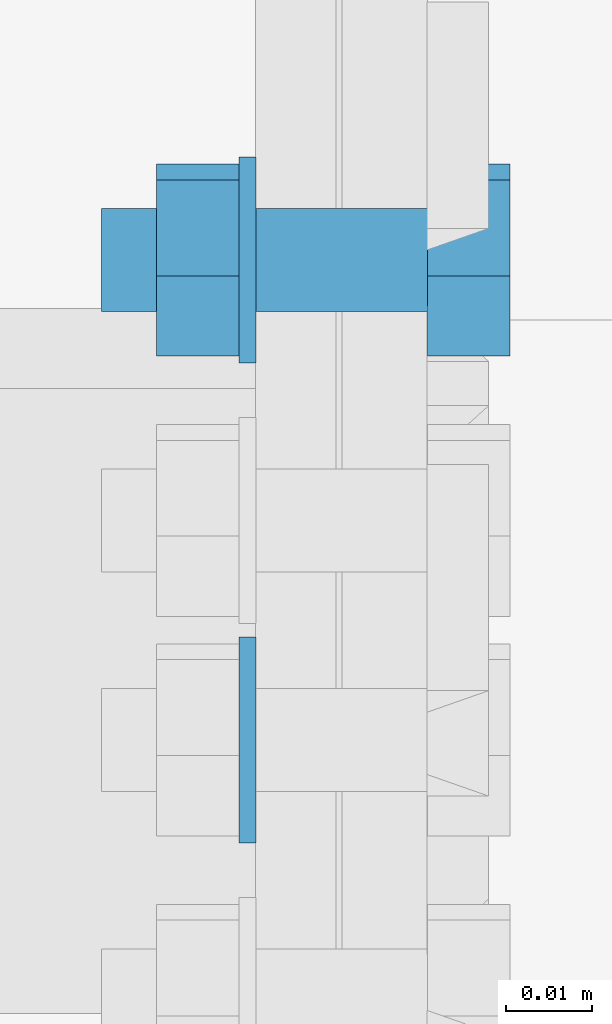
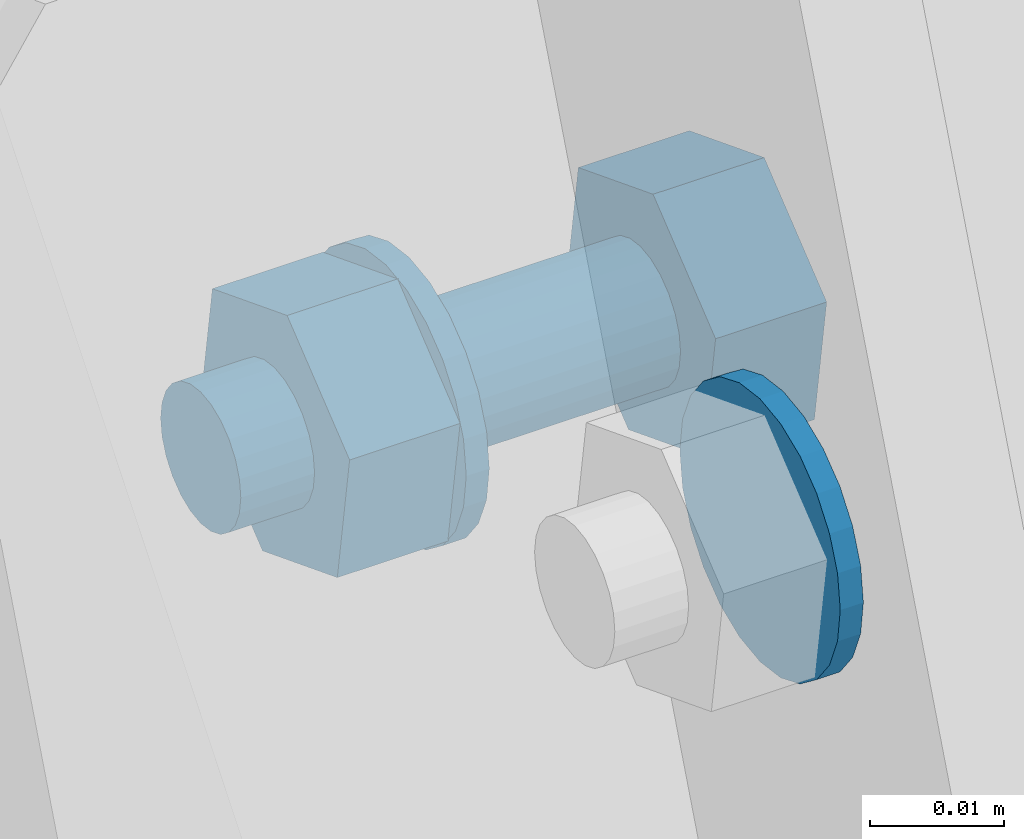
# One storey, part 32 of 72: 5 mechanical fasteners.
"""IFC4 building model written with IfcOpenShell, lengths in metres."""

import ifcopenshell
import ifcopenshell.guid

model = None  # the IFC model being written
_history = None  # IfcOwnerHistory: only IFC2X3 demands one
_inside = {}  # id of a spatial element -> (the spatial element, [elements in it])
_under = {}  # id of a project, library or spatial element -> (it, [spatial elements below it])
_declared = {}  # id of a project -> (the project, [libraries it declares])
_typed = {}  # id of a type object -> (the type object, [elements of that type])
_made_of = {}  # id of a material, layer set ... -> (it, [elements and type objects made of it])


def new_model(schema):
    """Start an empty IFC model of exactly this schema.

    Asked for "IFC4X3", IfcOpenShell would pick the latest addendum, in which some entities
    have other attributes; the version numbers below select the first issue.
    IFC2X3 requires an IfcOwnerHistory on every rooted entity: one is made here for all.
    """
    global model, _history
    if schema == "IFC4X3":
        model = ifcopenshell.file(schema_version=(4, 3, 0, 0))
    else:
        model = ifcopenshell.file(schema=schema)
    _inside.clear()
    _under.clear()
    _declared.clear()
    _typed.clear()
    _made_of.clear()
    _history = None
    if model.schema == "IFC2X3":
        org = make("IfcOrganization", Name="unknown")
        user = make(
            "IfcPersonAndOrganization",
            ThePerson=make("IfcPerson", FamilyName="unknown"),
            TheOrganization=org,
        )
        app = make(
            "IfcApplication",
            ApplicationDeveloper=org,
            Version="unknown",
            ApplicationFullName="unknown",
            ApplicationIdentifier="unknown",
        )
        _history = make(
            "IfcOwnerHistory",
            OwningUser=user,
            OwningApplication=app,
            ChangeAction="ADDED",
            CreationDate=0,
        )
    return model


def make(cls, **values):
    """One entity of the class cls with the attributes given. An attribute that is None is left unset."""
    return model.create_entity(
        cls, **{name: value for name, value in values.items() if value is not None}
    )


def rooted(cls, **values):
    """An entity with a GlobalId (a new one), such as an element, a storey or a relation."""
    return make(cls, GlobalId=ifcopenshell.guid.new(), OwnerHistory=_history, **values)


def si_unit(unit_type, name, prefix=None):
    """IfcSIUnit, for example si_unit("LENGTHUNIT", "METRE", prefix="MILLI")."""
    return make("IfcSIUnit", UnitType=unit_type, Prefix=prefix, Name=name)


def assignment(units):
    """IfcUnitAssignment: the units of a project."""
    return None if units is None else make("IfcUnitAssignment", Units=units)


def point(xyz):
    """IfcCartesianPoint."""
    return None if xyz is None else make("IfcCartesianPoint", Coordinates=xyz)


def direction(xyz):
    """IfcDirection."""
    return None if xyz is None else make("IfcDirection", DirectionRatios=xyz)


def frame(location, z_axis=None, x_axis=None):
    """IfcAxis2Placement3D, a coordinate frame: its origin and axes. An axis left out is left unset."""
    return make(
        "IfcAxis2Placement3D",
        Location=point(location),
        Axis=direction(z_axis),
        RefDirection=direction(x_axis),
    )


def origin_with_axes():
    """The frame at (0, 0, 0) with the z axis (0, 0, 1) and the x axis (1, 0, 0) written out."""
    return frame((0.0, 0.0, 0.0), z_axis=(0.0, 0.0, 1.0), x_axis=(1.0, 0.0, 0.0))


def place(relative_to, where):
    """IfcLocalPlacement: puts the frame where relative to a parent placement (None: the world)."""
    return make(
        "IfcLocalPlacement", PlacementRelTo=relative_to, RelativePlacement=where
    )


def context(
    kind, dimensions, precision=None, world=None, true_north=None, identifier=None
):
    """IfcGeometricRepresentationContext, for example the 3D "Model" context."""
    return make(
        "IfcGeometricRepresentationContext",
        ContextIdentifier=identifier,
        ContextType=kind,
        CoordinateSpaceDimension=dimensions,
        Precision=precision,
        WorldCoordinateSystem=world,
        TrueNorth=true_north,
    )


def project(units=None, contexts=None):
    """IfcProject with its units and contexts."""
    return rooted(
        "IfcProject",
        Name="project",
        RepresentationContexts=contexts,
        UnitsInContext=assignment(units),
    )


def spatial(cls, under=None, at=None, **own):
    """A site, building, storey or space (cls), placed at a placement, below another one or the project."""
    s = rooted(cls, ObjectPlacement=at, **own)
    if under is not None:
        _under.setdefault(under.id(), (under, []))[1].append(s)
    return s


def polyline(points):
    """IfcPolyline through the points."""
    return make("IfcPolyline", Points=[point(p) for p in points])


def outline(outer, holes=None, kind="AREA"):
    """IfcArbitraryClosedProfileDef: a profile drawn as a closed curve; with holes, ...WithVoids."""
    if holes is None:
        return make("IfcArbitraryClosedProfileDef", ProfileType=kind, OuterCurve=outer)
    return make(
        "IfcArbitraryProfileDefWithVoids",
        ProfileType=kind,
        OuterCurve=outer,
        InnerCurves=holes,
    )


def extrude(swept, where, along, depth):
    """IfcExtrudedAreaSolid: the profile swept, set in the frame where, extruded along a direction by depth."""
    return make(
        "IfcExtrudedAreaSolid",
        SweptArea=swept,
        Position=where,
        ExtrudedDirection=direction(along),
        Depth=depth,
    )


def shape(context_of_items, identifier, shape_type, items):
    """IfcShapeRepresentation: the items that make up one representation, for example the "Body"."""
    return make(
        "IfcShapeRepresentation",
        ContextOfItems=context_of_items,
        RepresentationIdentifier=identifier,
        RepresentationType=shape_type,
        Items=items,
    )


def made_of(thing, what):
    """Note that an element or type object is made of a material, layer set ...; save() writes the relation."""
    if what is not None:
        _made_of.setdefault(what.id(), (what, []))[1].append(thing)
    return thing


def type_object(cls, material=None, **own):
    """A type object (cls), such as IfcWallType, which elements share."""
    return made_of(rooted(cls, **own), material)


def element(
    cls,
    number,
    at=None,
    inside=None,
    cuts=None,
    type_object=None,
    material=None,
    context=None,
    identifier="Body",
    shape_type=None,
    held_by="IfcProductDefinitionShape",
    body=None,
    shapes=None,
    **own,
):
    """One element of the class cls, such as IfcWall. Its Tag is "e" and its number.

    at: its placement. inside: the storey or other place that contains it. cuts: it is an
    opening in that element (IfcRelVoidsElement). A single representation is given by context,
    identifier, shape_type and body (its items); several are given by shapes. held_by: the class
    of the entity that holds the representations. save() writes the other relations.
    """
    e = rooted(cls, Tag="e%d" % number, ObjectPlacement=at, **own)
    if body is not None:
        shapes = [shape(context, identifier, shape_type, body)]
    if shapes is not None:
        e.Representation = make(held_by, Representations=shapes)
    if inside is not None:
        _inside.setdefault(inside.id(), (inside, []))[1].append(e)
    if cuts is not None:
        rooted(
            "IfcRelVoidsElement", RelatingBuildingElement=cuts, RelatedOpeningElement=e
        )
    if type_object is not None:
        _typed.setdefault(type_object.id(), (type_object, []))[1].append(e)
    return made_of(e, material)


def aggregate(whole, parts):
    """IfcRelAggregates: a whole, such as a stair, and the parts it consists of."""
    return rooted("IfcRelAggregates", RelatingObject=whole, RelatedObjects=parts)


def save(model, path):
    """Write the relations noted so far, then the file.

    IfcRelAggregates (storeys below a building ...), IfcRelContainedInSpatialStructure (elements
    in a storey), IfcRelDefinesByType, IfcRelAssociatesMaterial and IfcRelDeclares: one each for
    every whole, place, type object, material and project.
    """
    for whole, parts in _under.values():
        aggregate(whole, parts)
    for where, things in _inside.values():
        rooted(
            "IfcRelContainedInSpatialStructure",
            RelatedElements=things,
            RelatingStructure=where,
        )
    for kind, things in _typed.values():
        rooted("IfcRelDefinesByType", RelatedObjects=things, RelatingType=kind)
    for what, things in _made_of.values():
        rooted("IfcRelAssociatesMaterial", RelatedObjects=things, RelatingMaterial=what)
    for by, libraries in _declared.values():
        rooted("IfcRelDeclares", RelatingContext=by, RelatedDefinitions=libraries)
    model.write(path)


model = new_model("IFC4")

# Units and contexts
model_context = context("Model", 3, precision=1e-05, world=origin_with_axes())
ifc_project = project(units=[si_unit("LENGTHUNIT", "METRE"), si_unit("AREAUNIT", "SQUARE_METRE"), si_unit("VOLUMEUNIT", "CUBIC_METRE"), si_unit("MASSUNIT", "GRAM", prefix="KILO"), si_unit("TIMEUNIT", "SECOND"), si_unit("PLANEANGLEUNIT", "RADIAN"), si_unit("SOLIDANGLEUNIT", "STERADIAN"), si_unit("THERMODYNAMICTEMPERATUREUNIT", "DEGREE_CELSIUS")], contexts=[model_context])

# Site, building, storey
placement_1 = place(None, origin_with_axes())
site = spatial("IfcSite", under=ifc_project, at=placement_1, Name="Italia", CompositionType="ELEMENT")
building = spatial("IfcBuilding", under=site, at=placement_1, Name="Uffici", CompositionType="ELEMENT")
storey = spatial("IfcBuildingStorey", under=building, at=placement_1, Name="Storey 0", CompositionType="ELEMENT", Elevation=0.0)

# Mechanical fasteners
mechanical_fastener_type_1 = type_object("IfcMechanicalFastenerType", Name="Collegamento -017_-018", PredefinedType="BOLT")
placement_2 = place(placement_1, origin_with_axes())
mechanical_fastener_1_placement = place(placement_2, origin_with_axes())
element("IfcMechanicalFastener", 1, at=mechanical_fastener_1_placement, inside=storey, type_object=mechanical_fastener_type_1, Name="Collegamento -017_-018", NominalDiameter=0.024, context=model_context, shape_type="SweptSolid", body=[
    extrude(outline(polyline([(0.0, 0.0), (-0.000408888, -0.00310564), (-0.00160789, -0.00600004), (-0.00351477, -0.00848532), (-0.00600004, -0.0103922), (-0.00889421, -0.011591), (-0.0120001, -0.0120001), (-0.015106, -0.011591), (-0.0180001, -0.0103922), (-0.0204854, -0.00848532), (-0.0223923, -0.00600004), (-0.0235913, -0.00310564), (-0.0240002, 0.0), (-0.0235913, 0.00310564), (-0.0223923, 0.00600004), (-0.0204854, 0.00848532), (-0.0180001, 0.0103922), (-0.015106, 0.011591), (-0.0120001, 0.0120001), (-0.00889421, 0.011591), (-0.00600004, 0.0103922), (-0.00351477, 0.00848532), (-0.00160789, 0.00600004), (-0.000408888, 0.00310564), (0.0, 0.0)])), frame((3.258, 3.22973, 5.9301), z_axis=(1.0, 0.0, 0.0), x_axis=(0.0, 1.0, 0.0)), (0.0, 0.0, 1.0), 0.00200009),
])
mechanical_fastener_type_2 = type_object("IfcMechanicalFastenerType", Name="Collegamento -017_-018", PredefinedType="BOLT")
mechanical_fastener_2_placement = place(placement_2, origin_with_axes())
element("IfcMechanicalFastener", 2, at=mechanical_fastener_2_placement, inside=storey, type_object=mechanical_fastener_type_2, Name="Collegamento -017_-018", NominalDiameter=0.0119997, context=model_context, shape_type="SweptSolid", body=[
    extrude(outline(polyline([(0.0, 0.0), (-0.0111887, 0.00433731), (-0.0130267, 0.0161958), (-0.00367594, 0.0237169), (0.00751281, 0.0193791), (0.00935054, 0.00752068), (0.0, 0.0)])), frame((3.28, 3.27551, 5.89655), z_axis=(1.0, 0.0, 0.0), x_axis=(0.0, 1.0, 0.0)), (0.0, 0.0, 1.0), 0.00959992),
])
mechanical_fastener_type_3 = type_object("IfcMechanicalFastenerType", Name="Collegamento -017_-018", PredefinedType="BOLT")
mechanical_fastener_3_placement = place(placement_2, origin_with_axes())
element("IfcMechanicalFastener", 3, at=mechanical_fastener_3_placement, inside=storey, type_object=mechanical_fastener_type_3, Name="Collegamento -017_-018", NominalDiameter=0.012, context=model_context, shape_type="SweptSolid", body=[
    extrude(outline(polyline([(0.0, 0.0), (-0.000204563, -0.00155306), (-0.000803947, -0.00299978), (-0.00175738, -0.00424242), (-0.00300002, -0.00519609), (-0.00444722, -0.00579548), (-0.00600004, -0.00600004), (-0.00755286, -0.00579548), (-0.00900006, -0.00519609), (-0.0102427, -0.00424242), (-0.0111961, -0.00299978), (-0.0117955, -0.00155306), (-0.0120001, 0.0), (-0.0117955, 0.00155306), (-0.0111961, 0.00299978), (-0.0102427, 0.00424242), (-0.00900006, 0.00519609), (-0.00755286, 0.00579548), (-0.00600004, 0.00600004), (-0.00444722, 0.00579548), (-0.00300002, 0.00519609), (-0.00175738, 0.00424242), (-0.000803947, 0.00299978), (-0.000204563, 0.00155306), (0.0, 0.0)])), frame((3.242, 3.27967, 5.90841), z_axis=(1.0, 0.0, 0.0), x_axis=(0.0, 1.0, 0.0)), (0.0, 0.0, 1.0), 0.0379999),
])
mechanical_fastener_type_4 = type_object("IfcMechanicalFastenerType", Name="Collegamento -017_-018", PredefinedType="BOLT")
mechanical_fastener_4_placement = place(placement_2, origin_with_axes())
element("IfcMechanicalFastener", 4, at=mechanical_fastener_4_placement, inside=storey, type_object=mechanical_fastener_type_4, Name="Collegamento -017_-018", NominalDiameter=0.0119997, context=model_context, shape_type="SweptSolid", body=[
    extrude(outline(polyline([(0.0, 0.0), (-0.0111887, 0.00433731), (-0.0130267, 0.0161958), (-0.00367594, 0.0237169), (0.00751281, 0.0193791), (0.00935054, 0.00752068), (0.0, 0.0)])), frame((3.2484, 3.27551, 5.89655), z_axis=(1.0, 0.0, 0.0), x_axis=(0.0, 1.0, 0.0)), (0.0, 0.0, 1.0), 0.00959992),
])
mechanical_fastener_type_5 = type_object("IfcMechanicalFastenerType", Name="Collegamento -017_-018", PredefinedType="BOLT")
mechanical_fastener_5_placement = place(placement_2, origin_with_axes())
element("IfcMechanicalFastener", 5, at=mechanical_fastener_5_placement, inside=storey, type_object=mechanical_fastener_type_5, Name="Collegamento -017_-018", NominalDiameter=0.024, context=model_context, shape_type="SweptSolid", body=[
    extrude(outline(polyline([(0.0, 0.0), (-0.000408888, -0.00310564), (-0.00160789, -0.00600004), (-0.00351477, -0.00848532), (-0.00600004, -0.0103922), (-0.00889421, -0.011591), (-0.0120001, -0.0120001), (-0.015106, -0.011591), (-0.0180001, -0.0103922), (-0.0204854, -0.00848532), (-0.0223923, -0.00600004), (-0.0235913, -0.00310564), (-0.0240002, 0.0), (-0.0235913, 0.00310564), (-0.0223923, 0.00600004), (-0.0204854, 0.00848532), (-0.0180001, 0.0103922), (-0.015106, 0.011591), (-0.0120001, 0.0120001), (-0.00889421, 0.011591), (-0.00600004, 0.0103922), (-0.00351477, 0.00848532), (-0.00160789, 0.00600004), (-0.000408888, 0.00310564), (0.0, 0.0)])), frame((3.258, 3.28567, 5.90841), z_axis=(1.0, 0.0, 0.0), x_axis=(0.0, 1.0, 0.0)), (0.0, 0.0, 1.0), 0.00200009),
])

save(model, "model.ifc")
